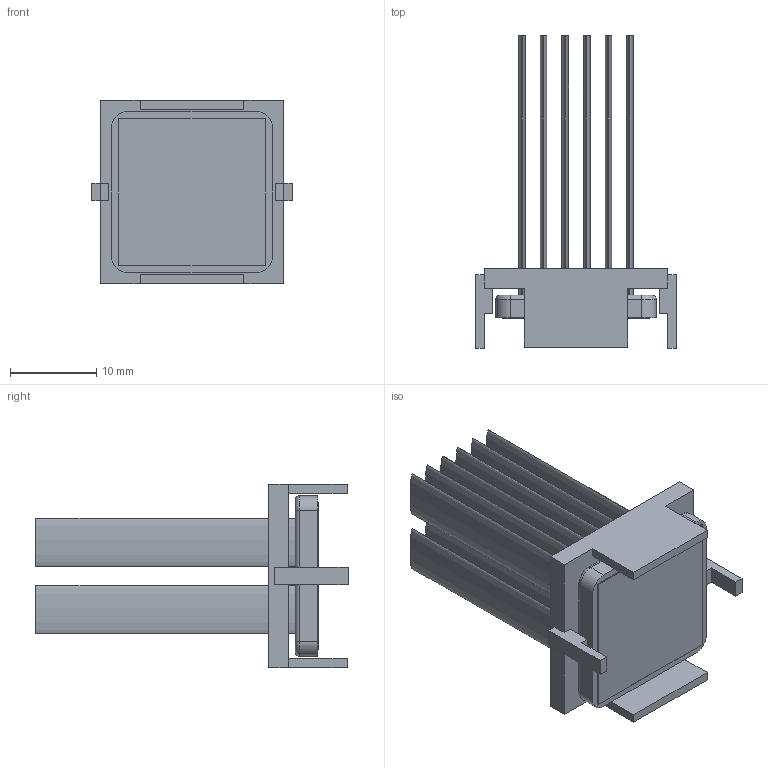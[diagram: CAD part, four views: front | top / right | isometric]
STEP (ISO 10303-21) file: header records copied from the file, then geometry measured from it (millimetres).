
FILE_DESCRIPTION (( 'STEP AP214' ), '1' );
FILE_NAME ('INM19001-33W-2.6Y.STEP', '2023-03-02T18:22:18', ( '' ), ( '' ), 'SwSTEP 2.0', 'SolidWorks 2020', '' );
FILE_SCHEMA (( 'AUTOMOTIVE_DESIGN' ));
Length unit declared in the file: millimetre
Products named in the file (1): INM19001-33W-2.6Y
Bounding box: 23.2 x 36.1 x 21.2 mm (x, y, z)
Volume: 2973.1 mm3; surface area: 6991.4 mm2
Topology: 3 solids, 3 shells, 106 faces, 256 edges, 168 vertices
Faces by surface type: plane 70, bspline 24, cylinder 8, torus 4
Entity records: 4330 total; most frequent: CARTESIAN_POINT 843, ORIENTED_EDGE 512, DIRECTION 394, EDGE_CURVE 256, LINE 188, VECTOR 188, VERTEX_POINT 168, EDGE_LOOP 120
